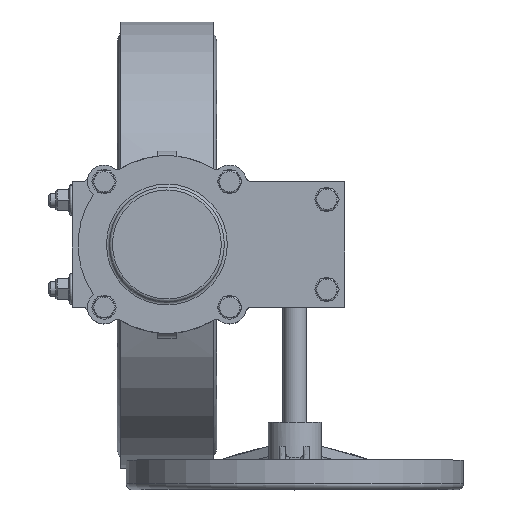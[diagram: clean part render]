
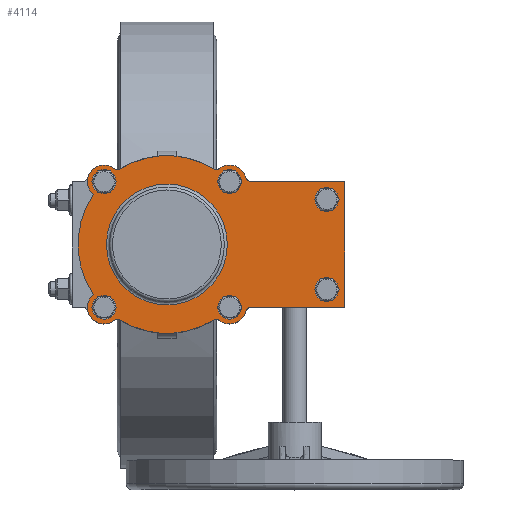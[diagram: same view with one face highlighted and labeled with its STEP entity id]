
A CAD part, top view. The second image highlights one B-rep face of the part: STEP entity #4114.
In plain terms, the highlighted planar face has unit normal (0, 0, 1).
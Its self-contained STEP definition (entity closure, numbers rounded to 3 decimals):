
#4114=ADVANCED_FACE('',(#8361,#8363,#8365,#8367,#8369,#8371,#8373,#8375),#8377,.T.);
#8361=FACE_BOUND('',#8362,.T.);
#8362=EDGE_LOOP('',(#15359,#15360,#15361,#15362,#15363,#15364,#15365,#15366,#15367,
#15368,#15369,#15370,#15371,#15372,#15373,#15374));
#8363=FACE_BOUND('',#8364,.T.);
#8364=EDGE_LOOP('',(#15375));
#8365=FACE_BOUND('',#8366,.T.);
#8366=EDGE_LOOP('',(#15376));
#8367=FACE_BOUND('',#8368,.T.);
#8368=EDGE_LOOP('',(#15377));
#8369=FACE_BOUND('',#8370,.T.);
#8370=EDGE_LOOP('',(#15378));
#8371=FACE_BOUND('',#8372,.T.);
#8372=EDGE_LOOP('',(#15379));
#8373=FACE_BOUND('',#8374,.T.);
#8374=EDGE_LOOP('',(#15380));
#8375=FACE_BOUND('',#8376,.T.);
#8376=EDGE_LOOP('',(#15381));
#8377=PLANE('',#8378);
#8378=AXIS2_PLACEMENT_3D('',#8379,#8380,#8381);
#8379=CARTESIAN_POINT('',(0.,0.,5.));
#8380=DIRECTION('',(0.,0.,1.));
#8381=DIRECTION('',(0.,1.,0.));
#15359=ORIENTED_EDGE('',*,*,#17296,.T.);
#15360=ORIENTED_EDGE('',*,*,#17297,.T.);
#15361=ORIENTED_EDGE('',*,*,#17298,.T.);
#15362=ORIENTED_EDGE('',*,*,#17299,.T.);
#15363=ORIENTED_EDGE('',*,*,#17300,.T.);
#15364=ORIENTED_EDGE('',*,*,#17301,.T.);
#15365=ORIENTED_EDGE('',*,*,#17302,.T.);
#15366=ORIENTED_EDGE('',*,*,#17303,.T.);
#15367=ORIENTED_EDGE('',*,*,#17304,.T.);
#15368=ORIENTED_EDGE('',*,*,#17305,.T.);
#15369=ORIENTED_EDGE('',*,*,#17306,.T.);
#15370=ORIENTED_EDGE('',*,*,#17307,.T.);
#15371=ORIENTED_EDGE('',*,*,#17308,.T.);
#15372=ORIENTED_EDGE('',*,*,#17309,.T.);
#15373=ORIENTED_EDGE('',*,*,#17310,.T.);
#15374=ORIENTED_EDGE('',*,*,#17311,.T.);
#15375=ORIENTED_EDGE('',*,*,#17312,.T.);
#15376=ORIENTED_EDGE('',*,*,#17313,.T.);
#15377=ORIENTED_EDGE('',*,*,#17314,.T.);
#15378=ORIENTED_EDGE('',*,*,#17315,.T.);
#15379=ORIENTED_EDGE('',*,*,#17316,.T.);
#15380=ORIENTED_EDGE('',*,*,#17317,.T.);
#15381=ORIENTED_EDGE('',*,*,#17318,.F.);
#17296=EDGE_CURVE('',#19719,#19720,#19721,.T.);
#17297=EDGE_CURVE('',#19720,#19722,#19723,.T.);
#17298=EDGE_CURVE('',#19722,#19724,#19725,.T.);
#17299=EDGE_CURVE('',#19724,#19726,#19727,.T.);
#17300=EDGE_CURVE('',#19726,#19728,#19729,.T.);
#17301=EDGE_CURVE('',#19728,#19730,#19731,.T.);
#17302=EDGE_CURVE('',#19730,#19732,#19733,.T.);
#17303=EDGE_CURVE('',#19732,#19734,#19735,.T.);
#17304=EDGE_CURVE('',#19734,#19736,#19737,.T.);
#17305=EDGE_CURVE('',#19736,#19738,#19739,.T.);
#17306=EDGE_CURVE('',#19738,#19740,#19741,.T.);
#17307=EDGE_CURVE('',#19740,#19742,#19743,.T.);
#17308=EDGE_CURVE('',#19742,#19744,#19745,.T.);
#17309=EDGE_CURVE('',#19744,#19746,#19747,.T.);
#17310=EDGE_CURVE('',#19746,#19748,#19749,.T.);
#17311=EDGE_CURVE('',#19748,#19719,#19750,.T.);
#17312=EDGE_CURVE('',#19751,#19751,#19752,.F.);
#17313=EDGE_CURVE('',#19753,#19753,#19754,.F.);
#17314=EDGE_CURVE('',#19755,#19755,#19756,.F.);
#17315=EDGE_CURVE('',#19757,#19757,#19758,.F.);
#17316=EDGE_CURVE('',#19759,#19759,#19760,.F.);
#17317=EDGE_CURVE('',#19761,#19761,#19762,.F.);
#17318=EDGE_CURVE('',#19763,#19763,#19764,.T.);
#19719=VERTEX_POINT('',#27362);
#19720=VERTEX_POINT('',#27363);
#19721=CIRCLE('',#27364,5.);
#19722=VERTEX_POINT('',#27368);
#19723=CIRCLE('',#27369,14.);
#19724=VERTEX_POINT('',#27373);
#19725=CIRCLE('',#27374,5.);
#19726=VERTEX_POINT('',#27378);
#19727=LINE('',#27379,#27380);
#19728=VERTEX_POINT('',#27382);
#19729=LINE('',#27383,#27384);
#19730=VERTEX_POINT('',#27386);
#19731=LINE('',#27387,#27388);
#19732=VERTEX_POINT('',#27390);
#19733=CIRCLE('',#27391,5.);
#19734=VERTEX_POINT('',#27395);
#19735=CIRCLE('',#27396,14.);
#19736=VERTEX_POINT('',#27400);
#19737=CIRCLE('',#27401,5.);
#19738=VERTEX_POINT('',#27405);
#19739=CIRCLE('',#27406,75.);
#19740=VERTEX_POINT('',#27410);
#19741=CIRCLE('',#27411,5.);
#19742=VERTEX_POINT('',#27415);
#19743=CIRCLE('',#27416,14.);
#19744=VERTEX_POINT('',#27420);
#19745=CIRCLE('',#27421,75.);
#19746=VERTEX_POINT('',#27425);
#19747=CIRCLE('',#27426,14.);
#19748=VERTEX_POINT('',#27430);
#19749=CIRCLE('',#27431,5.);
#19750=CIRCLE('',#27435,75.);
#19751=VERTEX_POINT('',#27439);
#19752=CIRCLE('',#27440,6.);
#19753=VERTEX_POINT('',#27444);
#19754=CIRCLE('',#27445,6.);
#19755=VERTEX_POINT('',#27449);
#19756=CIRCLE('',#27450,6.);
#19757=VERTEX_POINT('',#27454);
#19758=CIRCLE('',#27455,6.);
#19759=VERTEX_POINT('',#27459);
#19760=CIRCLE('',#27460,6.);
#19761=VERTEX_POINT('',#27464);
#19762=CIRCLE('',#27465,6.);
#19763=VERTEX_POINT('',#27469);
#19764=CIRCLE('',#27470,51.);
#27362=CARTESIAN_POINT('',(64.01,39.086,5.));
#27363=CARTESIAN_POINT('',(64.266,44.677,5.));
#27364=AXIS2_PLACEMENT_3D('',#27365,#27366,#27367);
#27365=CARTESIAN_POINT('',(68.277,41.692,5.));
#27366=DIRECTION('',(0.,0.,-1.));
#27367=DIRECTION('',(-0.853,-0.521,0.));
#27368=CARTESIAN_POINT('',(56.717,66.54,5.));
#27369=AXIS2_PLACEMENT_3D('',#27370,#27371,#27372);
#27370=CARTESIAN_POINT('',(53.033,53.033,5.));
#27371=DIRECTION('',(0.,0.,1.));
#27372=DIRECTION('',(0.802,-0.597,0.));
#27373=CARTESIAN_POINT('',(53.033,71.363,5.));
#27374=AXIS2_PLACEMENT_3D('',#27375,#27376,#27377);
#27375=CARTESIAN_POINT('',(58.033,71.363,5.));
#27376=DIRECTION('',(0.,0.,-1.));
#27377=DIRECTION('',(-0.263,-0.965,0.));
#27378=CARTESIAN_POINT('',(53.033,150.,5.));
#27379=CARTESIAN_POINT('',(53.033,71.363,5.));
#27380=VECTOR('',#27381,1.);
#27381=DIRECTION('',(0.,1.,0.));
#27382=CARTESIAN_POINT('',(-53.033,150.,5.));
#27383=CARTESIAN_POINT('',(53.033,150.,5.));
#27384=VECTOR('',#27385,1.);
#27385=DIRECTION('',(-1.,0.,0.));
#27386=CARTESIAN_POINT('',(-53.033,71.363,5.));
#27387=CARTESIAN_POINT('',(-53.033,150.,5.));
#27388=VECTOR('',#27389,1.);
#27389=DIRECTION('',(0.,-1.,0.));
#27390=CARTESIAN_POINT('',(-56.717,66.54,5.));
#27391=AXIS2_PLACEMENT_3D('',#27392,#27393,#27394);
#27392=CARTESIAN_POINT('',(-58.033,71.363,5.));
#27393=DIRECTION('',(0.,0.,-1.));
#27394=DIRECTION('',(1.,0.,0.));
#27395=CARTESIAN_POINT('',(-64.266,44.677,5.));
#27396=AXIS2_PLACEMENT_3D('',#27397,#27398,#27399);
#27397=CARTESIAN_POINT('',(-53.033,53.033,5.));
#27398=DIRECTION('',(0.,0.,1.));
#27399=DIRECTION('',(-0.263,0.965,0.));
#27400=CARTESIAN_POINT('',(-64.01,39.086,5.));
#27401=AXIS2_PLACEMENT_3D('',#27402,#27403,#27404);
#27402=CARTESIAN_POINT('',(-68.277,41.692,5.));
#27403=DIRECTION('',(0.,0.,-1.));
#27404=DIRECTION('',(0.802,0.597,0.));
#27405=CARTESIAN_POINT('',(-64.01,-39.086,5.));
#27406=AXIS2_PLACEMENT_3D('',#27407,#27408,#27409);
#27407=CARTESIAN_POINT('',(0.,0.,5.));
#27408=DIRECTION('',(0.,0.,1.));
#27409=DIRECTION('',(-0.853,0.521,0.));
#27410=CARTESIAN_POINT('',(-64.266,-44.677,5.));
#27411=AXIS2_PLACEMENT_3D('',#27412,#27413,#27414);
#27412=CARTESIAN_POINT('',(-68.277,-41.692,5.));
#27413=DIRECTION('',(0.,0.,-1.));
#27414=DIRECTION('',(0.853,0.521,0.));
#27415=CARTESIAN_POINT('',(-42.253,-61.965,5.));
#27416=AXIS2_PLACEMENT_3D('',#27417,#27418,#27419);
#27417=CARTESIAN_POINT('',(-53.033,-53.033,5.));
#27418=DIRECTION('',(0.,0.,1.));
#27419=DIRECTION('',(-0.802,0.597,0.));
#27420=CARTESIAN_POINT('',(42.253,-61.965,5.));
#27421=AXIS2_PLACEMENT_3D('',#27422,#27423,#27424);
#27422=CARTESIAN_POINT('',(0.,0.,5.));
#27423=DIRECTION('',(0.,0.,1.));
#27424=DIRECTION('',(-0.563,-0.826,0.));
#27425=CARTESIAN_POINT('',(64.266,-44.677,5.));
#27426=AXIS2_PLACEMENT_3D('',#27427,#27428,#27429);
#27427=CARTESIAN_POINT('',(53.033,-53.033,5.));
#27428=DIRECTION('',(0.,0.,1.));
#27429=DIRECTION('',(-0.77,-0.638,0.));
#27430=CARTESIAN_POINT('',(64.01,-39.086,5.));
#27431=AXIS2_PLACEMENT_3D('',#27432,#27433,#27434);
#27432=CARTESIAN_POINT('',(68.277,-41.692,5.));
#27433=DIRECTION('',(0.,0.,-1.));
#27434=DIRECTION('',(-0.802,-0.597,0.));
#27435=AXIS2_PLACEMENT_3D('',#27436,#27437,#27438);
#27436=CARTESIAN_POINT('',(0.,0.,5.));
#27437=DIRECTION('',(0.,0.,1.));
#27438=DIRECTION('',(0.853,-0.521,0.));
#27439=CARTESIAN_POINT('',(-32.033,135.,5.));
#27440=AXIS2_PLACEMENT_3D('',#27441,#27442,#27443);
#27441=CARTESIAN_POINT('',(-38.033,135.,5.));
#27442=DIRECTION('',(0.,0.,1.));
#27443=DIRECTION('',(1.,0.,0.));
#27444=CARTESIAN_POINT('',(44.033,135.,5.));
#27445=AXIS2_PLACEMENT_3D('',#27446,#27447,#27448);
#27446=CARTESIAN_POINT('',(38.033,135.,5.));
#27447=DIRECTION('',(0.,0.,1.));
#27448=DIRECTION('',(1.,0.,0.));
#27449=CARTESIAN_POINT('',(53.033,59.033,5.));
#27450=AXIS2_PLACEMENT_3D('',#27451,#27452,#27453);
#27451=CARTESIAN_POINT('',(53.033,53.033,5.));
#27452=DIRECTION('',(0.,0.,1.));
#27453=DIRECTION('',(0.,1.,0.));
#27454=CARTESIAN_POINT('',(59.033,-53.033,5.));
#27455=AXIS2_PLACEMENT_3D('',#27456,#27457,#27458);
#27456=CARTESIAN_POINT('',(53.033,-53.033,5.));
#27457=DIRECTION('',(0.,0.,1.));
#27458=DIRECTION('',(1.,0.,0.));
#27459=CARTESIAN_POINT('',(-53.033,-59.033,5.));
#27460=AXIS2_PLACEMENT_3D('',#27461,#27462,#27463);
#27461=CARTESIAN_POINT('',(-53.033,-53.033,5.));
#27462=DIRECTION('',(0.,0.,1.));
#27463=DIRECTION('',(0.,-1.,0.));
#27464=CARTESIAN_POINT('',(-59.033,53.033,5.));
#27465=AXIS2_PLACEMENT_3D('',#27466,#27467,#27468);
#27466=CARTESIAN_POINT('',(-53.033,53.033,5.));
#27467=DIRECTION('',(0.,0.,1.));
#27468=DIRECTION('',(-1.,0.,0.));
#27469=CARTESIAN_POINT('',(-51.,0.,5.));
#27470=AXIS2_PLACEMENT_3D('',#27471,#27472,#27473);
#27471=CARTESIAN_POINT('',(0.,0.,5.));
#27472=DIRECTION('',(0.,0.,1.));
#27473=DIRECTION('',(-1.,0.,0.));
